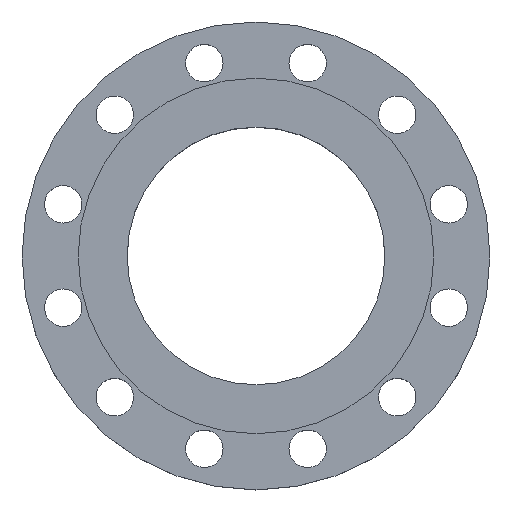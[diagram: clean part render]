
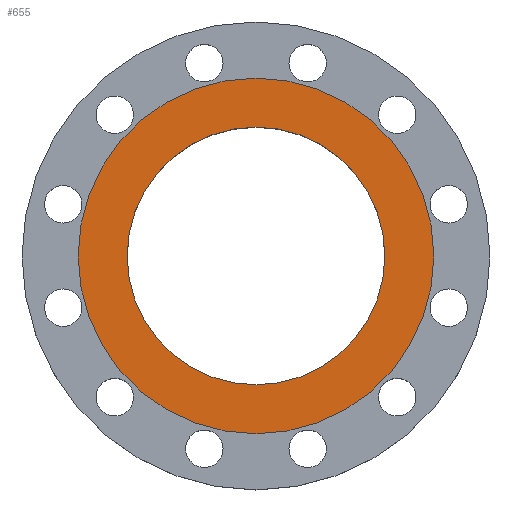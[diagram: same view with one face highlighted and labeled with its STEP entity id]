
A CAD part, top view. The second image highlights one B-rep face of the part: STEP entity #655.
In plain terms, the highlighted planar face has unit normal (0, 0, 1).
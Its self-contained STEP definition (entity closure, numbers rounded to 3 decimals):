
#2 = ORIENTED_EDGE ( 'NONE', *, *, #1034, .T. ) ;
#31 = AXIS2_PLACEMENT_3D ( 'NONE', #487, #970, #1351 ) ;
#46 = DIRECTION ( 'NONE',  ( 0., 0., 1. ) ) ;
#88 = AXIS2_PLACEMENT_3D ( 'NONE', #1115, #46, #571 ) ;
#91 = CIRCLE ( 'NONE', #88, 103.25 ) ;
#124 = VERTEX_POINT ( 'NONE', #199 ) ;
#148 = ORIENTED_EDGE ( 'NONE', *, *, #617, .T. ) ;
#199 = CARTESIAN_POINT ( 'NONE',  ( -103.25, 0., 6.3 ) ) ;
#270 = EDGE_CURVE ( 'NONE', #124, #1078, #695, .T. ) ;
#278 = DIRECTION ( 'NONE',  ( 1., 0., 0. ) ) ;
#284 = AXIS2_PLACEMENT_3D ( 'NONE', #905, #1298, #278 ) ;
#355 = EDGE_LOOP ( 'NONE', ( #2, #148 ) ) ;
#371 = CARTESIAN_POINT ( 'NONE',  ( 0., 0., 6.3 ) ) ;
#412 = PLANE ( 'NONE',  #284 ) ;
#487 = CARTESIAN_POINT ( 'NONE',  ( 0., 0., 6.3 ) ) ;
#571 = DIRECTION ( 'NONE',  ( 1., 0., 0. ) ) ;
#607 = CIRCLE ( 'NONE', #31, 142.5 ) ;
#617 = EDGE_CURVE ( 'NONE', #1386, #1381, #607, .T. ) ;
#655 = ADVANCED_FACE ( 'NONE', ( #1009, #1389 ), #412, .T. ) ;
#659 = ORIENTED_EDGE ( 'NONE', *, *, #270, .F. ) ;
#673 = AXIS2_PLACEMENT_3D ( 'NONE', #371, #865, #1270 ) ;
#695 = CIRCLE ( 'NONE', #673, 103.25 ) ;
#718 = CARTESIAN_POINT ( 'NONE',  ( 142.5, 0., 6.3 ) ) ;
#745 = CARTESIAN_POINT ( 'NONE',  ( 103.25, 0., 6.3 ) ) ;
#839 = CIRCLE ( 'NONE', #884, 142.5 ) ;
#865 = DIRECTION ( 'NONE',  ( 0., 0., 1. ) ) ;
#884 = AXIS2_PLACEMENT_3D ( 'NONE', #1155, #981, #1362 ) ;
#905 = CARTESIAN_POINT ( 'NONE',  ( 142.5, 0., 6.3 ) ) ;
#950 = EDGE_LOOP ( 'NONE', ( #1098, #659 ) ) ;
#970 = DIRECTION ( 'NONE',  ( 0., 0., 1. ) ) ;
#981 = DIRECTION ( 'NONE',  ( 0., 0., 1. ) ) ;
#1009 = FACE_OUTER_BOUND ( 'NONE', #355, .T. ) ;
#1034 = EDGE_CURVE ( 'NONE', #1381, #1386, #839, .T. ) ;
#1078 = VERTEX_POINT ( 'NONE', #745 ) ;
#1098 = ORIENTED_EDGE ( 'NONE', *, *, #1262, .F. ) ;
#1115 = CARTESIAN_POINT ( 'NONE',  ( 0., 0., 6.3 ) ) ;
#1145 = CARTESIAN_POINT ( 'NONE',  ( -142.5, 0., 6.3 ) ) ;
#1155 = CARTESIAN_POINT ( 'NONE',  ( 0., 0., 6.3 ) ) ;
#1262 = EDGE_CURVE ( 'NONE', #1078, #124, #91, .T. ) ;
#1270 = DIRECTION ( 'NONE',  ( 1., 0., 0. ) ) ;
#1298 = DIRECTION ( 'NONE',  ( 0., 0., 1. ) ) ;
#1351 = DIRECTION ( 'NONE',  ( 1., 0., 0. ) ) ;
#1362 = DIRECTION ( 'NONE',  ( 1., 0., 0. ) ) ;
#1381 = VERTEX_POINT ( 'NONE', #718 ) ;
#1386 = VERTEX_POINT ( 'NONE', #1145 ) ;
#1389 = FACE_BOUND ( 'NONE', #950, .T. ) ;
